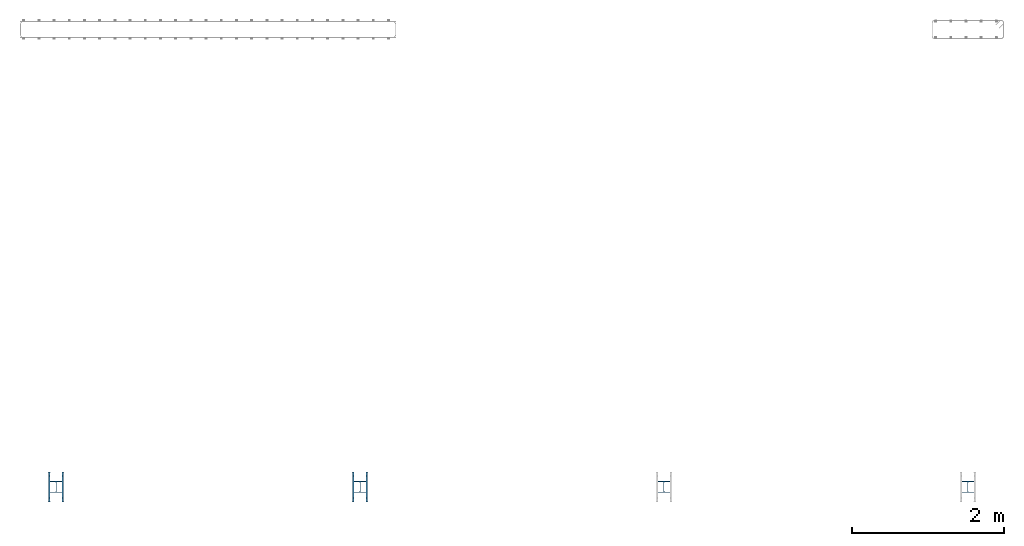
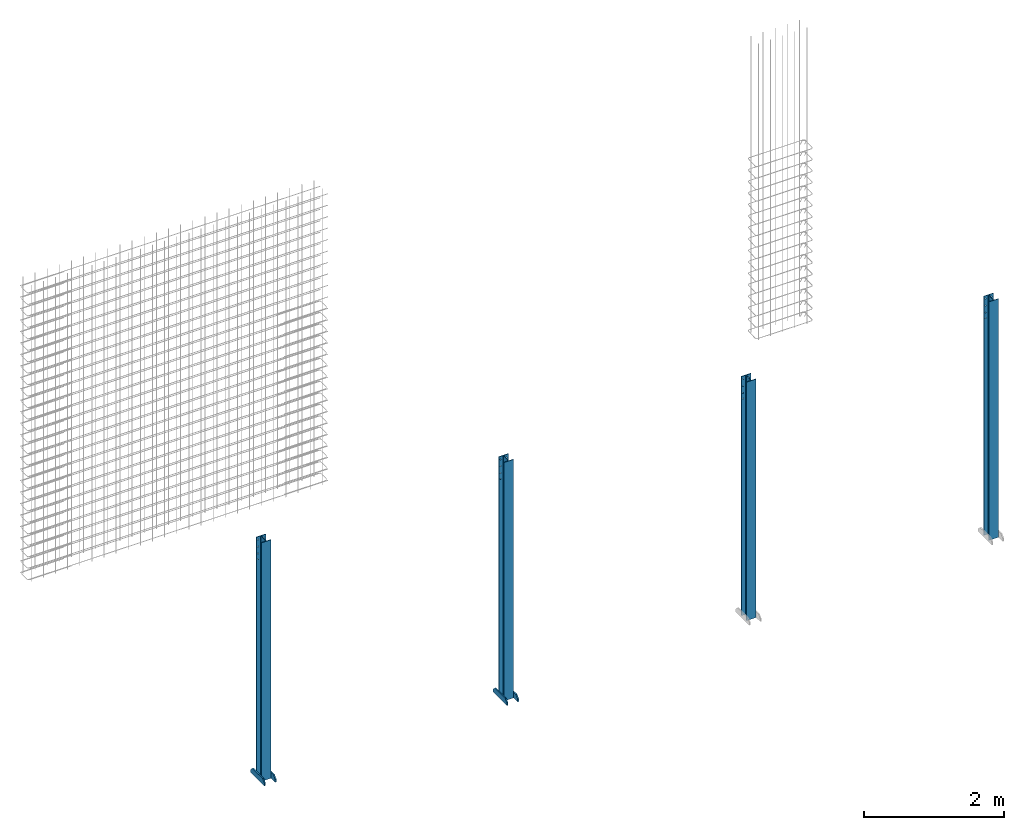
# One storey, part 1 of 4: 4 columns, 4 plates, 64 openings.
"""IFC4X3_ADD2 building model written with IfcOpenShell, lengths in millimetres."""

import ifcopenshell
import ifcopenshell.guid

model = None  # the IFC model being written
_history = None  # IfcOwnerHistory: only IFC2X3 demands one
_inside = {}  # id of a spatial element -> (the spatial element, [elements in it])
_under = {}  # id of a project, library or spatial element -> (it, [spatial elements below it])
_declared = {}  # id of a project -> (the project, [libraries it declares])
_typed = {}  # id of a type object -> (the type object, [elements of that type])
_made_of = {}  # id of a material, layer set ... -> (it, [elements and type objects made of it])


def new_model(schema):
    """Start an empty IFC model of exactly this schema.

    Asked for "IFC4X3", IfcOpenShell would pick the latest addendum, in which some entities
    have other attributes; the version numbers below select the first issue.
    IFC2X3 requires an IfcOwnerHistory on every rooted entity: one is made here for all.
    """
    global model, _history
    if schema == "IFC4X3":
        model = ifcopenshell.file(schema_version=(4, 3, 0, 0))
    else:
        model = ifcopenshell.file(schema=schema)
    _inside.clear()
    _under.clear()
    _declared.clear()
    _typed.clear()
    _made_of.clear()
    _history = None
    if model.schema == "IFC2X3":
        org = make("IfcOrganization", Name="unknown")
        user = make(
            "IfcPersonAndOrganization",
            ThePerson=make("IfcPerson", FamilyName="unknown"),
            TheOrganization=org,
        )
        app = make(
            "IfcApplication",
            ApplicationDeveloper=org,
            Version="unknown",
            ApplicationFullName="unknown",
            ApplicationIdentifier="unknown",
        )
        _history = make(
            "IfcOwnerHistory",
            OwningUser=user,
            OwningApplication=app,
            ChangeAction="ADDED",
            CreationDate=0,
        )
    return model


def make(cls, **values):
    """One entity of the class cls with the attributes given. An attribute that is None is left unset."""
    return model.create_entity(
        cls, **{name: value for name, value in values.items() if value is not None}
    )


def entity(cls, *values):
    """Any entity or typed value of the class cls, its attributes in the order of the schema. None: left unset."""
    e = model.create_entity(cls)
    for i, value in enumerate(values):
        if value is not None:
            e[i] = value
    return e


def rooted(cls, **values):
    """An entity with a GlobalId (a new one), such as an element, a storey or a relation."""
    return make(cls, GlobalId=ifcopenshell.guid.new(), OwnerHistory=_history, **values)


def si_unit(unit_type, name, prefix=None):
    """IfcSIUnit, for example si_unit("LENGTHUNIT", "METRE", prefix="MILLI")."""
    return make("IfcSIUnit", UnitType=unit_type, Prefix=prefix, Name=name)


def converted_unit(unit_type, name, factor, base, dimensions=None, offset=None):
    """IfcConversionBasedUnit, such as the inch: factor (a typed value) times the base unit."""
    return make(
        "IfcConversionBasedUnit"
        if offset is None
        else "IfcConversionBasedUnitWithOffset",
        ConversionOffset=offset,
        Dimensions=None
        if dimensions is None
        else entity("IfcDimensionalExponents", *dimensions),
        UnitType=unit_type,
        Name=name,
        ConversionFactor=make(
            "IfcMeasureWithUnit", ValueComponent=factor, UnitComponent=base
        ),
    )


def derived_unit(unit_type, elements):
    """IfcDerivedUnit: a product of units, each with its exponent."""
    return make(
        "IfcDerivedUnit",
        Elements=[
            make("IfcDerivedUnitElement", Unit=unit, Exponent=power)
            for unit, power in elements
        ],
        UnitType=unit_type,
    )


def assignment(units):
    """IfcUnitAssignment: the units of a project."""
    return None if units is None else make("IfcUnitAssignment", Units=units)


def point(xyz):
    """IfcCartesianPoint."""
    return None if xyz is None else make("IfcCartesianPoint", Coordinates=xyz)


def direction(xyz):
    """IfcDirection."""
    return None if xyz is None else make("IfcDirection", DirectionRatios=xyz)


def frame(location, z_axis=None, x_axis=None):
    """IfcAxis2Placement3D, a coordinate frame: its origin and axes. An axis left out is left unset."""
    return make(
        "IfcAxis2Placement3D",
        Location=point(location),
        Axis=direction(z_axis),
        RefDirection=direction(x_axis),
    )


def frame_2d(location, x_axis=None):
    """IfcAxis2Placement2D, a coordinate frame in the plane: its origin and x axis."""
    return make(
        "IfcAxis2Placement2D", Location=point(location), RefDirection=direction(x_axis)
    )


def origin():
    """The frame at (0, 0, 0) with its axes left unset."""
    return frame((0.0, 0.0, 0.0))


def origin_with_axes():
    """The frame at (0, 0, 0) with the z axis (0, 0, 1) and the x axis (1, 0, 0) written out."""
    return frame((0.0, 0.0, 0.0), z_axis=(0.0, 0.0, 1.0), x_axis=(1.0, 0.0, 0.0))


def origin_2d():
    """The frame at (0, 0) in the plane with its x axis left unset."""
    return frame_2d((0.0, 0.0))


def origin_2d_with_axis():
    """The frame at (0, 0) in the plane with the x axis (1, 0) written out."""
    return frame_2d((0.0, 0.0), x_axis=(1.0, 0.0))


def place(relative_to, where):
    """IfcLocalPlacement: puts the frame where relative to a parent placement (None: the world)."""
    return make(
        "IfcLocalPlacement", PlacementRelTo=relative_to, RelativePlacement=where
    )


def context(
    kind, dimensions, precision=None, world=None, true_north=None, identifier=None
):
    """IfcGeometricRepresentationContext, for example the 3D "Model" context."""
    return make(
        "IfcGeometricRepresentationContext",
        ContextIdentifier=identifier,
        ContextType=kind,
        CoordinateSpaceDimension=dimensions,
        Precision=precision,
        WorldCoordinateSystem=world,
        TrueNorth=true_north,
    )


def project(units=None, contexts=None):
    """IfcProject with its units and contexts."""
    return rooted(
        "IfcProject",
        Name="project",
        RepresentationContexts=contexts,
        UnitsInContext=assignment(units),
    )


def spatial(cls, under=None, at=None, **own):
    """A site, building, storey or space (cls), placed at a placement, below another one or the project."""
    s = rooted(cls, ObjectPlacement=at, **own)
    if under is not None:
        _under.setdefault(under.id(), (under, []))[1].append(s)
    return s


def polyline(points):
    """IfcPolyline through the points."""
    return make("IfcPolyline", Points=[point(p) for p in points])


def profile(cls, at=None, kind="AREA", **sizes):
    """A parametric profile (cls). Its sizes go by their IFC names, for example OverallWidth=200.0."""
    return make(cls, ProfileType=kind, Position=at, **sizes)


def circle(**sizes):
    """IfcCircleProfileDef."""
    return profile("IfcCircleProfileDef", **sizes)


def i_section(**sizes):
    """IfcIShapeProfileDef."""
    return profile("IfcIShapeProfileDef", **sizes)


def outline(outer, holes=None, kind="AREA"):
    """IfcArbitraryClosedProfileDef: a profile drawn as a closed curve; with holes, ...WithVoids."""
    if holes is None:
        return make("IfcArbitraryClosedProfileDef", ProfileType=kind, OuterCurve=outer)
    return make(
        "IfcArbitraryProfileDefWithVoids",
        ProfileType=kind,
        OuterCurve=outer,
        InnerCurves=holes,
    )


def extrude(swept, where, along, depth):
    """IfcExtrudedAreaSolid: the profile swept, set in the frame where, extruded along a direction by depth."""
    return make(
        "IfcExtrudedAreaSolid",
        SweptArea=swept,
        Position=where,
        ExtrudedDirection=direction(along),
        Depth=depth,
    )


def clip(a, b, op="DIFFERENCE"):
    """IfcBooleanClippingResult: the solid a cut by the half space b."""
    return make(
        "IfcBooleanClippingResult", Operator=op, FirstOperand=a, SecondOperand=b
    )


def halfspace(plane, agree):
    """IfcHalfSpaceSolid: all space on one side of the plane z = 0 of the frame plane."""
    return make(
        "IfcHalfSpaceSolid",
        BaseSurface=make("IfcPlane", Position=plane),
        AgreementFlag=agree,
    )


def shape(context_of_items, identifier, shape_type, items):
    """IfcShapeRepresentation: the items that make up one representation, for example the "Body"."""
    return make(
        "IfcShapeRepresentation",
        ContextOfItems=context_of_items,
        RepresentationIdentifier=identifier,
        RepresentationType=shape_type,
        Items=items,
    )


def material(Name=None, Category=None):
    """IfcMaterial."""
    return make("IfcMaterial", Name=Name, Category=Category)


def layer(
    of_material, thickness, ventilated=None, Name=None, Category=None, Priority=None
):
    """IfcMaterialLayer: one layer of a wall or slab, of a material (None: an air gap)."""
    return make(
        "IfcMaterialLayer",
        Material=of_material,
        LayerThickness=thickness,
        IsVentilated=ventilated,
        Name=Name,
        Category=Category,
        Priority=Priority,
    )


def layer_set(layers, Name=None):
    """IfcMaterialLayerSet."""
    return make("IfcMaterialLayerSet", MaterialLayers=layers, LayerSetName=Name)


def made_of(thing, what):
    """Note that an element or type object is made of a material, layer set ...; save() writes the relation."""
    if what is not None:
        _made_of.setdefault(what.id(), (what, []))[1].append(thing)
    return thing


def type_object(cls, material=None, **own):
    """A type object (cls), such as IfcWallType, which elements share."""
    return made_of(rooted(cls, **own), material)


def element(
    cls,
    number,
    at=None,
    inside=None,
    cuts=None,
    type_object=None,
    material=None,
    context=None,
    identifier="Body",
    shape_type=None,
    held_by="IfcProductDefinitionShape",
    body=None,
    shapes=None,
    **own,
):
    """One element of the class cls, such as IfcWall. Its Tag is "e" and its number.

    at: its placement. inside: the storey or other place that contains it. cuts: it is an
    opening in that element (IfcRelVoidsElement). A single representation is given by context,
    identifier, shape_type and body (its items); several are given by shapes. held_by: the class
    of the entity that holds the representations. save() writes the other relations.
    """
    e = rooted(cls, Tag="e%d" % number, ObjectPlacement=at, **own)
    if body is not None:
        shapes = [shape(context, identifier, shape_type, body)]
    if shapes is not None:
        e.Representation = make(held_by, Representations=shapes)
    if inside is not None:
        _inside.setdefault(inside.id(), (inside, []))[1].append(e)
    if cuts is not None:
        rooted(
            "IfcRelVoidsElement", RelatingBuildingElement=cuts, RelatedOpeningElement=e
        )
    if type_object is not None:
        _typed.setdefault(type_object.id(), (type_object, []))[1].append(e)
    return made_of(e, material)


def aggregate(whole, parts):
    """IfcRelAggregates: a whole, such as a stair, and the parts it consists of."""
    return rooted("IfcRelAggregates", RelatingObject=whole, RelatedObjects=parts)


def save(model, path):
    """Write the relations noted so far, then the file.

    IfcRelAggregates (storeys below a building ...), IfcRelContainedInSpatialStructure (elements
    in a storey), IfcRelDefinesByType, IfcRelAssociatesMaterial and IfcRelDeclares: one each for
    every whole, place, type object, material and project.
    """
    for whole, parts in _under.values():
        aggregate(whole, parts)
    for where, things in _inside.values():
        rooted(
            "IfcRelContainedInSpatialStructure",
            RelatedElements=things,
            RelatingStructure=where,
        )
    for kind, things in _typed.values():
        rooted("IfcRelDefinesByType", RelatedObjects=things, RelatingType=kind)
    for what, things in _made_of.values():
        rooted("IfcRelAssociatesMaterial", RelatedObjects=things, RelatingMaterial=what)
    for by, libraries in _declared.values():
        rooted("IfcRelDeclares", RelatingContext=by, RelatedDefinitions=libraries)
    model.write(path)


model = new_model("IFC4X3_ADD2")

# Units and contexts
model_context = context("Model", 3, precision=0.01, world=origin(), true_north=direction((6.123233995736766e-17, 1.0)))
plan_context = context("Plan", 3, precision=0.01, world=origin(), true_north=direction((6.123233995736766e-17, 1.0)))
ifc_project = project(units=[si_unit("LENGTHUNIT", "METRE", prefix="MILLI"), converted_unit("PLANEANGLEUNIT", "DEGREE", entity("IfcPlaneAngleMeasure", 0.017453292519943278), si_unit("PLANEANGLEUNIT", "RADIAN"), dimensions=[0, 0, 0, 0, 0, 0, 0]), si_unit("AREAUNIT", "SQUARE_METRE"), si_unit("VOLUMEUNIT", "CUBIC_METRE"), derived_unit("THERMALTRANSMITTANCEUNIT", [(si_unit("MASSUNIT", "GRAM", prefix="KILO"), 1), (si_unit("THERMODYNAMICTEMPERATUREUNIT", "KELVIN"), -1), (si_unit("TIMEUNIT", "SECOND"), -3)]), derived_unit("USERDEFINED", [(si_unit("MASSUNIT", "GRAM", prefix="KILO"), 1), (si_unit("THERMODYNAMICTEMPERATUREUNIT", "KELVIN"), -1), (si_unit("TIMEUNIT", "SECOND"), -2)]), derived_unit("THERMALRESISTANCEUNIT", [(si_unit("MASSUNIT", "GRAM", prefix="KILO"), -1), (si_unit("TIMEUNIT", "SECOND"), 3), (si_unit("THERMODYNAMICTEMPERATUREUNIT", "KELVIN"), 1)]), si_unit("MASSUNIT", "GRAM", prefix="KILO"), derived_unit("MOMENTOFINERTIAUNIT", [(si_unit("LENGTHUNIT", "METRE"), 4)]), derived_unit("LINEARFORCEUNIT", [(si_unit("MASSUNIT", "GRAM", prefix="KILO"), 1), (si_unit("TIMEUNIT", "SECOND"), -2)]), derived_unit("WARPINGCONSTANTUNIT", [(si_unit("LENGTHUNIT", "METRE"), 6)]), si_unit("PRESSUREUNIT", "PASCAL"), derived_unit("MASSDENSITYUNIT", [(si_unit("MASSUNIT", "GRAM", prefix="KILO"), 1), (si_unit("LENGTHUNIT", "METRE"), -3)]), derived_unit("MODULUSOFELASTICITYUNIT", [(si_unit("MASSUNIT", "GRAM", prefix="KILO"), 1), (si_unit("TIMEUNIT", "SECOND"), -2), (si_unit("LENGTHUNIT", "METRE"), -1)]), derived_unit("THERMALEXPANSIONCOEFFICIENTUNIT", [(si_unit("THERMODYNAMICTEMPERATUREUNIT", "KELVIN"), -1)]), derived_unit("VAPORPERMEABILITYUNIT", [(si_unit("LENGTHUNIT", "METRE"), -1), (si_unit("TIMEUNIT", "SECOND"), 1)]), derived_unit("USERDEFINED", [(si_unit("MASSUNIT", "GRAM", prefix="KILO"), 1), (si_unit("TIMEUNIT", "SECOND"), -3), (si_unit("LENGTHUNIT", "METRE"), 3), (si_unit("ELECTRICCURRENTUNIT", "AMPERE"), -2)]), derived_unit("SPECIFICHEATCAPACITYUNIT", [(si_unit("THERMODYNAMICTEMPERATUREUNIT", "KELVIN"), -1), (si_unit("TIMEUNIT", "SECOND"), -2), (si_unit("LENGTHUNIT", "METRE"), 2)]), derived_unit("THERMALCONDUCTANCEUNIT", [(si_unit("MASSUNIT", "GRAM", prefix="KILO"), 1), (si_unit("THERMODYNAMICTEMPERATUREUNIT", "KELVIN"), -1), (si_unit("TIMEUNIT", "SECOND"), -3), (si_unit("LENGTHUNIT", "METRE"), 1)])], contexts=[model_context, plan_context])

# Site, building, storey
site_placement = place(None, origin())
site = spatial("IfcSite", under=ifc_project, at=site_placement, Name="Default", CompositionType="ELEMENT")
building_placement = place(site_placement, origin())
building = spatial("IfcBuilding", under=site, at=building_placement, Name="Complex structure", CompositionType="ELEMENT")
storey_placement = place(building_placement, frame((0.0, 0.0, -200.0)))
storey = spatial("IfcBuildingStorey", under=building, at=storey_placement, Name="Level -01", CompositionType="ELEMENT", Elevation=-200.0)

# Column, openings
ifc_material_1 = material(Name="Structural Steel - S235", Category="Metal")
column_type = type_object("IfcColumnType", Name="HE-A Column:HEA160", PredefinedType="COLUMN", material=ifc_material_1)
column_1_placement = place(storey_placement, frame((-5145.221550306, -1282.866703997, 4391.004690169)))
column_1 = element("IfcColumn", 1, at=column_1_placement, inside=storey, type_object=column_type, material=ifc_material_1, Name="HE-A Column:HEA160", ObjectType="HEA160", context=model_context, shape_type="Clipping", body=[
    clip(clip(extrude(i_section(OverallWidth=160.0, OverallDepth=152.0, WebThickness=6.0, FlangeThickness=9.0, FilletRadius=15.0, at=origin_2d()), origin(), (0.0, 0.0, -1.0), 4581.349603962), halfspace(frame((5145.221550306, 1282.866703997, -4365.603690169), z_axis=(0.0, 0.0, 1.0), x_axis=(1.0, 0.0, 0.0)), True)), halfspace(frame((5145.221550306, 943.815402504, -122.389072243), z_axis=(0.0, 0.08304548, -0.996545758), x_axis=(-1.0, 0.0, 0.0)), True)),
])
opening_1_placement = place(column_1_placement, frame((49.1952, 66.5, -588.004690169), z_axis=(0.0, 1.0, 0.0), x_axis=(-1.0, 0.0, 0.0)))
element("IfcOpeningElement", 2, at=opening_1_placement, cuts=column_1, ObjectType="Opening", context=model_context, shape_type="SweptSolid", body=[
    extrude(circle(Radius=8.79475, at=origin_2d_with_axis()), origin(), (0.0, 0.0, 1.0), 10.0),
])
opening_2_placement = place(column_1_placement, frame((-49.8048, 66.5, -588.004690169), z_axis=(0.0, 1.0, 0.0), x_axis=(-1.0, 0.0, 0.0)))
element("IfcOpeningElement", 3, at=opening_2_placement, cuts=column_1, ObjectType="Opening", context=model_context, shape_type="SweptSolid", body=[
    extrude(circle(Radius=8.79475, at=origin_2d_with_axis()), origin(), (0.0, 0.0, 1.0), 10.0),
])
opening_3_placement = place(column_1_placement, frame((-49.8048, 66.5, -488.004690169), z_axis=(0.0, 1.0, 0.0), x_axis=(-1.0, 0.0, 0.0)))
element("IfcOpeningElement", 4, at=opening_3_placement, cuts=column_1, ObjectType="Opening", context=model_context, shape_type="SweptSolid", body=[
    extrude(circle(Radius=8.79475, at=origin_2d_with_axis()), origin(), (0.0, 0.0, 1.0), 10.0),
])
opening_4_placement = place(column_1_placement, frame((49.1952, 66.5, -248.004690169), z_axis=(0.0, 1.0, 0.0), x_axis=(-1.0, 0.0, 0.0)))
element("IfcOpeningElement", 5, at=opening_4_placement, cuts=column_1, ObjectType="Opening", context=model_context, shape_type="SweptSolid", body=[
    extrude(circle(Radius=8.79475, at=origin_2d_with_axis()), origin(), (0.0, 0.0, 1.0), 10.0),
])
opening_5_placement = place(column_1_placement, frame((-49.8048, 66.5, -248.004690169), z_axis=(0.0, 1.0, 0.0), x_axis=(-1.0, 0.0, 0.0)))
element("IfcOpeningElement", 6, at=opening_5_placement, cuts=column_1, ObjectType="Opening", context=model_context, shape_type="SweptSolid", body=[
    extrude(circle(Radius=8.79475, at=origin_2d_with_axis()), origin(), (0.0, 0.0, 1.0), 10.0),
])
opening_6_placement = place(column_1_placement, frame((49.1952, 66.5, -488.004690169), z_axis=(0.0, 1.0, 0.0), x_axis=(-1.0, 0.0, 0.0)))
element("IfcOpeningElement", 7, at=opening_6_placement, cuts=column_1, ObjectType="Opening", context=model_context, shape_type="SweptSolid", body=[
    extrude(circle(Radius=8.79475, at=origin_2d_with_axis()), origin(), (0.0, 0.0, 1.0), 10.0),
])
opening_7_placement = place(column_1_placement, frame((-49.8048, 66.5, -368.004690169), z_axis=(0.0, 1.0, 0.0), x_axis=(-1.0, 0.0, 0.0)))
element("IfcOpeningElement", 8, at=opening_7_placement, cuts=column_1, ObjectType="Opening", context=model_context, shape_type="SweptSolid", body=[
    extrude(circle(Radius=8.79475, at=origin_2d_with_axis()), origin(), (0.0, 0.0, 1.0), 10.0),
])
opening_8_placement = place(column_1_placement, frame((49.1952, 66.5, -368.004690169), z_axis=(0.0, 1.0, 0.0), x_axis=(-1.0, 0.0, 0.0)))
element("IfcOpeningElement", 9, at=opening_8_placement, cuts=column_1, ObjectType="Opening", context=model_context, shape_type="SweptSolid", body=[
    extrude(circle(Radius=8.79475, at=origin_2d_with_axis()), origin(), (0.0, 0.0, 1.0), 10.0),
])
opening_9_placement = place(column_1_placement, frame((-3.5, 25.0, -1226.004690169), z_axis=(1.0, 0.0, 0.0), x_axis=(0.0, 1.0, 0.0)))
element("IfcOpeningElement", 10, at=opening_9_placement, cuts=column_1, ObjectType="Opening", context=model_context, shape_type="SweptSolid", body=[
    extrude(circle(Radius=6.79475, at=origin_2d_with_axis()), origin(), (0.0, 0.0, 1.0), 7.0),
])
opening_10_placement = place(column_1_placement, frame((-3.5, -25.0, -1226.004690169), z_axis=(1.0, 0.0, 0.0), x_axis=(0.0, -1.0, 0.0)))
element("IfcOpeningElement", 11, at=opening_10_placement, cuts=column_1, ObjectType="Opening", context=model_context, shape_type="SweptSolid", body=[
    extrude(circle(Radius=6.79475, at=origin_2d_with_axis()), origin(), (0.0, 0.0, 1.0), 7.0),
])
opening_11_placement = place(column_1_placement, frame((-3.5, -25.0, -1291.004690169), z_axis=(1.0, 0.0, 0.0), x_axis=(0.0, -1.0, 0.0)))
element("IfcOpeningElement", 12, at=opening_11_placement, cuts=column_1, ObjectType="Opening", context=model_context, shape_type="SweptSolid", body=[
    extrude(circle(Radius=6.79475, at=origin_2d_with_axis()), origin(), (0.0, 0.0, 1.0), 7.0),
])
opening_12_placement = place(column_1_placement, frame((-3.5, 25.0, -1291.004690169), z_axis=(1.0, 0.0, 0.0), x_axis=(0.0, 1.0, 0.0)))
element("IfcOpeningElement", 13, at=opening_12_placement, cuts=column_1, ObjectType="Opening", context=model_context, shape_type="SweptSolid", body=[
    extrude(circle(Radius=6.79475, at=origin_2d_with_axis()), origin(), (0.0, 0.0, 1.0), 7.0),
])
opening_13_placement = place(column_1_placement, frame((3.5, 25.0, -1291.004690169), z_axis=(-1.0, 0.0, 0.0), x_axis=(0.0, 1.0, 0.0)))
element("IfcOpeningElement", 14, at=opening_13_placement, cuts=column_1, ObjectType="Opening", context=model_context, shape_type="SweptSolid", body=[
    extrude(circle(Radius=6.79475, at=origin_2d_with_axis()), origin(), (0.0, 0.0, 1.0), 7.0),
])
opening_14_placement = place(column_1_placement, frame((3.5, -25.0, -1226.004690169), z_axis=(-1.0, 0.0, 0.0), x_axis=(0.0, -1.0, 0.0)))
element("IfcOpeningElement", 15, at=opening_14_placement, cuts=column_1, ObjectType="Opening", context=model_context, shape_type="SweptSolid", body=[
    extrude(circle(Radius=6.79475, at=origin_2d_with_axis()), origin(), (0.0, 0.0, 1.0), 7.0),
])
opening_15_placement = place(column_1_placement, frame((3.5, 25.0, -1226.004690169), z_axis=(-1.0, 0.0, 0.0), x_axis=(0.0, 1.0, 0.0)))
element("IfcOpeningElement", 16, at=opening_15_placement, cuts=column_1, ObjectType="Opening", context=model_context, shape_type="SweptSolid", body=[
    extrude(circle(Radius=6.79475, at=origin_2d_with_axis()), origin(), (0.0, 0.0, 1.0), 7.0),
])
opening_16_placement = place(column_1_placement, frame((3.5, -25.0, -1291.004690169), z_axis=(-1.0, 0.0, 0.0), x_axis=(0.0, -1.0, 0.0)))
element("IfcOpeningElement", 17, at=opening_16_placement, cuts=column_1, ObjectType="Opening", context=model_context, shape_type="SweptSolid", body=[
    extrude(circle(Radius=6.79475, at=origin_2d_with_axis()), origin(), (0.0, 0.0, 1.0), 7.0),
])

column_2_placement = place(storey_placement, frame((-9145.221550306, -1282.866703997, 4391.004690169)))
column_2 = element("IfcColumn", 18, at=column_2_placement, inside=storey, type_object=column_type, material=ifc_material_1, Name="HE-A Column:HEA160", ObjectType="HEA160", context=model_context, shape_type="Clipping", body=[
    clip(clip(extrude(i_section(OverallWidth=160.0, OverallDepth=152.0, WebThickness=6.0, FlangeThickness=9.0, FilletRadius=15.0, at=origin_2d()), origin(), (0.0, 0.0, -1.0), 4581.349603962), halfspace(frame((9145.221550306, 1282.866703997, -4365.603690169), z_axis=(0.0, 0.0, 1.0), x_axis=(1.0, 0.0, 0.0)), True)), halfspace(frame((9145.221550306, 943.815402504, -122.389072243), z_axis=(0.0, 0.08304548, -0.996545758), x_axis=(-1.0, 0.0, 0.0)), True)),
])
opening_17_placement = place(column_2_placement, frame((49.1952, 66.5, -588.004690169), z_axis=(0.0, 1.0, 0.0), x_axis=(-1.0, 0.0, 0.0)))
element("IfcOpeningElement", 19, at=opening_17_placement, cuts=column_2, ObjectType="Opening", context=model_context, shape_type="SweptSolid", body=[
    extrude(circle(Radius=8.79475, at=origin_2d_with_axis()), origin(), (0.0, 0.0, 1.0), 10.0),
])
opening_18_placement = place(column_2_placement, frame((-49.8048, 66.5, -588.004690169), z_axis=(0.0, 1.0, 0.0), x_axis=(-1.0, 0.0, 0.0)))
element("IfcOpeningElement", 20, at=opening_18_placement, cuts=column_2, ObjectType="Opening", context=model_context, shape_type="SweptSolid", body=[
    extrude(circle(Radius=8.79475, at=origin_2d_with_axis()), origin(), (0.0, 0.0, 1.0), 10.0),
])
opening_19_placement = place(column_2_placement, frame((49.1952, 66.5, -248.004690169), z_axis=(0.0, 1.0, 0.0), x_axis=(-1.0, 0.0, 0.0)))
element("IfcOpeningElement", 21, at=opening_19_placement, cuts=column_2, ObjectType="Opening", context=model_context, shape_type="SweptSolid", body=[
    extrude(circle(Radius=8.79475, at=origin_2d_with_axis()), origin(), (0.0, 0.0, 1.0), 10.0),
])
opening_20_placement = place(column_2_placement, frame((49.1952, 66.5, -368.004690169), z_axis=(0.0, 1.0, 0.0), x_axis=(-1.0, 0.0, 0.0)))
element("IfcOpeningElement", 22, at=opening_20_placement, cuts=column_2, ObjectType="Opening", context=model_context, shape_type="SweptSolid", body=[
    extrude(circle(Radius=8.79475, at=origin_2d_with_axis()), origin(), (0.0, 0.0, 1.0), 10.0),
])
opening_21_placement = place(column_2_placement, frame((49.1952, 66.5, -488.004690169), z_axis=(0.0, 1.0, 0.0), x_axis=(-1.0, 0.0, 0.0)))
element("IfcOpeningElement", 23, at=opening_21_placement, cuts=column_2, ObjectType="Opening", context=model_context, shape_type="SweptSolid", body=[
    extrude(circle(Radius=8.79475, at=origin_2d_with_axis()), origin(), (0.0, 0.0, 1.0), 10.0),
])
opening_22_placement = place(column_2_placement, frame((-49.8048, 66.5, -248.004690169), z_axis=(0.0, 1.0, 0.0), x_axis=(-1.0, 0.0, 0.0)))
element("IfcOpeningElement", 24, at=opening_22_placement, cuts=column_2, ObjectType="Opening", context=model_context, shape_type="SweptSolid", body=[
    extrude(circle(Radius=8.79475, at=origin_2d_with_axis()), origin(), (0.0, 0.0, 1.0), 10.0),
])
opening_23_placement = place(column_2_placement, frame((-49.8048, 66.5, -368.004690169), z_axis=(0.0, 1.0, 0.0), x_axis=(-1.0, 0.0, 0.0)))
element("IfcOpeningElement", 25, at=opening_23_placement, cuts=column_2, ObjectType="Opening", context=model_context, shape_type="SweptSolid", body=[
    extrude(circle(Radius=8.79475, at=origin_2d_with_axis()), origin(), (0.0, 0.0, 1.0), 10.0),
])
opening_24_placement = place(column_2_placement, frame((-49.8048, 66.5, -488.004690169), z_axis=(0.0, 1.0, 0.0), x_axis=(-1.0, 0.0, 0.0)))
element("IfcOpeningElement", 26, at=opening_24_placement, cuts=column_2, ObjectType="Opening", context=model_context, shape_type="SweptSolid", body=[
    extrude(circle(Radius=8.79475, at=origin_2d_with_axis()), origin(), (0.0, 0.0, 1.0), 10.0),
])
opening_25_placement = place(column_2_placement, frame((3.5, 25.0, -1226.004690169), z_axis=(-1.0, 0.0, 0.0), x_axis=(0.0, 1.0, 0.0)))
element("IfcOpeningElement", 27, at=opening_25_placement, cuts=column_2, ObjectType="Opening", context=model_context, shape_type="SweptSolid", body=[
    extrude(circle(Radius=6.79475, at=origin_2d_with_axis()), origin(), (0.0, 0.0, 1.0), 7.0),
])
opening_26_placement = place(column_2_placement, frame((3.5, 25.0, -1291.004690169), z_axis=(-1.0, 0.0, 0.0), x_axis=(0.0, 1.0, 0.0)))
element("IfcOpeningElement", 28, at=opening_26_placement, cuts=column_2, ObjectType="Opening", context=model_context, shape_type="SweptSolid", body=[
    extrude(circle(Radius=6.79475, at=origin_2d_with_axis()), origin(), (0.0, 0.0, 1.0), 7.0),
])
opening_27_placement = place(column_2_placement, frame((3.5, -25.0, -1291.004690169), z_axis=(-1.0, 0.0, 0.0), x_axis=(0.0, -1.0, 0.0)))
element("IfcOpeningElement", 29, at=opening_27_placement, cuts=column_2, ObjectType="Opening", context=model_context, shape_type="SweptSolid", body=[
    extrude(circle(Radius=6.79475, at=origin_2d_with_axis()), origin(), (0.0, 0.0, 1.0), 7.0),
])
opening_28_placement = place(column_2_placement, frame((3.5, -25.0, -1226.004690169), z_axis=(-1.0, 0.0, 0.0), x_axis=(0.0, -1.0, 0.0)))
element("IfcOpeningElement", 30, at=opening_28_placement, cuts=column_2, ObjectType="Opening", context=model_context, shape_type="SweptSolid", body=[
    extrude(circle(Radius=6.79475, at=origin_2d_with_axis()), origin(), (0.0, 0.0, 1.0), 7.0),
])
opening_29_placement = place(column_2_placement, frame((-3.5, -25.0, -1226.004690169), z_axis=(1.0, 0.0, 0.0), x_axis=(0.0, -1.0, 0.0)))
element("IfcOpeningElement", 31, at=opening_29_placement, cuts=column_2, ObjectType="Opening", context=model_context, shape_type="SweptSolid", body=[
    extrude(circle(Radius=6.79475, at=origin_2d_with_axis()), origin(), (0.0, 0.0, 1.0), 7.0),
])
opening_30_placement = place(column_2_placement, frame((-3.5, 25.0, -1291.004690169), z_axis=(1.0, 0.0, 0.0), x_axis=(0.0, 1.0, 0.0)))
element("IfcOpeningElement", 32, at=opening_30_placement, cuts=column_2, ObjectType="Opening", context=model_context, shape_type="SweptSolid", body=[
    extrude(circle(Radius=6.79475, at=origin_2d_with_axis()), origin(), (0.0, 0.0, 1.0), 7.0),
])
opening_31_placement = place(column_2_placement, frame((-3.5, -25.0, -1291.004690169), z_axis=(1.0, 0.0, 0.0), x_axis=(0.0, -1.0, 0.0)))
element("IfcOpeningElement", 33, at=opening_31_placement, cuts=column_2, ObjectType="Opening", context=model_context, shape_type="SweptSolid", body=[
    extrude(circle(Radius=6.79475, at=origin_2d_with_axis()), origin(), (0.0, 0.0, 1.0), 7.0),
])
opening_32_placement = place(column_2_placement, frame((-3.5, 25.0, -1226.004690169), z_axis=(1.0, 0.0, 0.0), x_axis=(0.0, 1.0, 0.0)))
element("IfcOpeningElement", 34, at=opening_32_placement, cuts=column_2, ObjectType="Opening", context=model_context, shape_type="SweptSolid", body=[
    extrude(circle(Radius=6.79475, at=origin_2d_with_axis()), origin(), (0.0, 0.0, 1.0), 7.0),
])

column_3_placement = place(storey_placement, frame((-13145.221550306, -1282.866703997, 4391.004690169)))
column_3 = element("IfcColumn", 35, at=column_3_placement, inside=storey, type_object=column_type, material=ifc_material_1, Name="HE-A Column:HEA160", ObjectType="HEA160", context=model_context, shape_type="Clipping", body=[
    clip(clip(extrude(i_section(OverallWidth=160.0, OverallDepth=152.0, WebThickness=6.0, FlangeThickness=9.0, FilletRadius=15.0, at=origin_2d()), origin(), (0.0, 0.0, -1.0), 4581.349603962), halfspace(frame((13145.221550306, 1282.866703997, -4365.603690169), z_axis=(0.0, 0.0, 1.0), x_axis=(1.0, 0.0, 0.0)), True)), halfspace(frame((13145.221550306, 943.815402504, -122.389072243), z_axis=(0.0, 0.08304548, -0.996545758), x_axis=(-1.0, 0.0, 0.0)), True)),
])
opening_33_placement = place(column_3_placement, frame((-49.5, 66.5, -488.004690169), z_axis=(0.0, 1.0, 0.0), x_axis=(-1.0, 0.0, 0.0)))
element("IfcOpeningElement", 36, at=opening_33_placement, cuts=column_3, ObjectType="Opening", context=model_context, shape_type="SweptSolid", body=[
    extrude(circle(Radius=8.79475, at=origin_2d_with_axis()), origin(), (0.0, 0.0, 1.0), 10.0),
])
opening_34_placement = place(column_3_placement, frame((-49.5, 66.5, -588.004690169), z_axis=(0.0, 1.0, 0.0), x_axis=(-1.0, 0.0, 0.0)))
element("IfcOpeningElement", 37, at=opening_34_placement, cuts=column_3, ObjectType="Opening", context=model_context, shape_type="SweptSolid", body=[
    extrude(circle(Radius=8.79475, at=origin_2d_with_axis()), origin(), (0.0, 0.0, 1.0), 10.0),
])
opening_35_placement = place(column_3_placement, frame((49.5, 66.5, -588.004690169), z_axis=(0.0, 1.0, 0.0), x_axis=(-1.0, 0.0, 0.0)))
element("IfcOpeningElement", 38, at=opening_35_placement, cuts=column_3, ObjectType="Opening", context=model_context, shape_type="SweptSolid", body=[
    extrude(circle(Radius=8.79475, at=origin_2d_with_axis()), origin(), (0.0, 0.0, 1.0), 10.0),
])
opening_36_placement = place(column_3_placement, frame((49.5, 66.5, -368.004690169), z_axis=(0.0, 1.0, 0.0), x_axis=(-1.0, 0.0, 0.0)))
element("IfcOpeningElement", 39, at=opening_36_placement, cuts=column_3, ObjectType="Opening", context=model_context, shape_type="SweptSolid", body=[
    extrude(circle(Radius=8.79475, at=origin_2d_with_axis()), origin(), (0.0, 0.0, 1.0), 10.0),
])
opening_37_placement = place(column_3_placement, frame((-49.5, 66.5, -368.004690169), z_axis=(0.0, 1.0, 0.0), x_axis=(-1.0, 0.0, 0.0)))
element("IfcOpeningElement", 40, at=opening_37_placement, cuts=column_3, ObjectType="Opening", context=model_context, shape_type="SweptSolid", body=[
    extrude(circle(Radius=8.79475, at=origin_2d_with_axis()), origin(), (0.0, 0.0, 1.0), 10.0),
])
opening_38_placement = place(column_3_placement, frame((49.5, 66.5, -248.004690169), z_axis=(0.0, 1.0, 0.0), x_axis=(-1.0, 0.0, 0.0)))
element("IfcOpeningElement", 41, at=opening_38_placement, cuts=column_3, ObjectType="Opening", context=model_context, shape_type="SweptSolid", body=[
    extrude(circle(Radius=8.79475, at=origin_2d_with_axis()), origin(), (0.0, 0.0, 1.0), 10.0),
])
opening_39_placement = place(column_3_placement, frame((-49.5, 66.5, -248.004690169), z_axis=(0.0, 1.0, 0.0), x_axis=(-1.0, 0.0, 0.0)))
element("IfcOpeningElement", 42, at=opening_39_placement, cuts=column_3, ObjectType="Opening", context=model_context, shape_type="SweptSolid", body=[
    extrude(circle(Radius=8.79475, at=origin_2d_with_axis()), origin(), (0.0, 0.0, 1.0), 10.0),
])
opening_40_placement = place(column_3_placement, frame((49.5, 66.5, -488.004690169), z_axis=(0.0, 1.0, 0.0), x_axis=(-1.0, 0.0, 0.0)))
element("IfcOpeningElement", 43, at=opening_40_placement, cuts=column_3, ObjectType="Opening", context=model_context, shape_type="SweptSolid", body=[
    extrude(circle(Radius=8.79475, at=origin_2d_with_axis()), origin(), (0.0, 0.0, 1.0), 10.0),
])
opening_41_placement = place(column_3_placement, frame((-3.5, 25.0, -1291.004690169), z_axis=(1.0, 0.0, 0.0), x_axis=(0.0, 1.0, 0.0)))
element("IfcOpeningElement", 44, at=opening_41_placement, cuts=column_3, ObjectType="Opening", context=model_context, shape_type="SweptSolid", body=[
    extrude(circle(Radius=6.79475, at=origin_2d_with_axis()), origin(), (0.0, 0.0, 1.0), 7.0),
])
opening_42_placement = place(column_3_placement, frame((-3.5, -25.0, -1291.004690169), z_axis=(1.0, 0.0, 0.0), x_axis=(0.0, -1.0, 0.0)))
element("IfcOpeningElement", 45, at=opening_42_placement, cuts=column_3, ObjectType="Opening", context=model_context, shape_type="SweptSolid", body=[
    extrude(circle(Radius=6.79475, at=origin_2d_with_axis()), origin(), (0.0, 0.0, 1.0), 7.0),
])
opening_43_placement = place(column_3_placement, frame((-3.5, -25.0, -1226.004690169), z_axis=(1.0, 0.0, 0.0), x_axis=(0.0, -1.0, 0.0)))
element("IfcOpeningElement", 46, at=opening_43_placement, cuts=column_3, ObjectType="Opening", context=model_context, shape_type="SweptSolid", body=[
    extrude(circle(Radius=6.79475, at=origin_2d_with_axis()), origin(), (0.0, 0.0, 1.0), 7.0),
])
opening_44_placement = place(column_3_placement, frame((-3.5, 25.0, -1226.004690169), z_axis=(1.0, 0.0, 0.0), x_axis=(0.0, 1.0, 0.0)))
element("IfcOpeningElement", 47, at=opening_44_placement, cuts=column_3, ObjectType="Opening", context=model_context, shape_type="SweptSolid", body=[
    extrude(circle(Radius=6.79475, at=origin_2d_with_axis()), origin(), (0.0, 0.0, 1.0), 7.0),
])

column_4_placement = place(storey_placement, frame((-1145.221550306, -1282.866703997, 4391.004690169)))
column_4 = element("IfcColumn", 48, at=column_4_placement, inside=storey, type_object=column_type, material=ifc_material_1, Name="HE-A Column:HEA160", ObjectType="HEA160", context=model_context, shape_type="Clipping", body=[
    clip(clip(extrude(i_section(OverallWidth=160.0, OverallDepth=152.0, WebThickness=6.0, FlangeThickness=9.0, FilletRadius=15.0, at=origin_2d()), origin(), (0.0, 0.0, -1.0), 4581.349603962), halfspace(frame((1145.221550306, 1282.866703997, -4365.603690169), z_axis=(0.0, 0.0, 1.0), x_axis=(1.0, 0.0, 0.0)), True)), halfspace(frame((1145.221550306, 943.815402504, -122.389072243), z_axis=(0.0, 0.08304548, -0.996545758), x_axis=(-1.0, 0.0, 0.0)), True)),
])
opening_45_placement = place(column_4_placement, frame((49.1952, 66.5, -368.004690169), z_axis=(0.0, 1.0, 0.0), x_axis=(-1.0, 0.0, 0.0)))
element("IfcOpeningElement", 49, at=opening_45_placement, cuts=column_4, ObjectType="Opening", context=model_context, shape_type="SweptSolid", body=[
    extrude(circle(Radius=8.79475, at=origin_2d_with_axis()), origin(), (0.0, 0.0, 1.0), 10.0),
])
opening_46_placement = place(column_4_placement, frame((49.1952, 66.5, -248.004690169), z_axis=(0.0, 1.0, 0.0), x_axis=(-1.0, 0.0, 0.0)))
element("IfcOpeningElement", 50, at=opening_46_placement, cuts=column_4, ObjectType="Opening", context=model_context, shape_type="SweptSolid", body=[
    extrude(circle(Radius=8.79475, at=origin_2d_with_axis()), origin(), (0.0, 0.0, 1.0), 10.0),
])
opening_47_placement = place(column_4_placement, frame((49.1952, 66.5, -588.004690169), z_axis=(0.0, 1.0, 0.0), x_axis=(-1.0, 0.0, 0.0)))
element("IfcOpeningElement", 51, at=opening_47_placement, cuts=column_4, ObjectType="Opening", context=model_context, shape_type="SweptSolid", body=[
    extrude(circle(Radius=8.79475, at=origin_2d_with_axis()), origin(), (0.0, 0.0, 1.0), 10.0),
])
opening_48_placement = place(column_4_placement, frame((-49.8048, 66.5, -368.004690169), z_axis=(0.0, 1.0, 0.0), x_axis=(-1.0, 0.0, 0.0)))
element("IfcOpeningElement", 52, at=opening_48_placement, cuts=column_4, ObjectType="Opening", context=model_context, shape_type="SweptSolid", body=[
    extrude(circle(Radius=8.79475, at=origin_2d_with_axis()), origin(), (0.0, 0.0, 1.0), 10.0),
])
opening_49_placement = place(column_4_placement, frame((49.1952, 66.5, -488.004690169), z_axis=(0.0, 1.0, 0.0), x_axis=(-1.0, 0.0, 0.0)))
element("IfcOpeningElement", 53, at=opening_49_placement, cuts=column_4, ObjectType="Opening", context=model_context, shape_type="SweptSolid", body=[
    extrude(circle(Radius=8.79475, at=origin_2d_with_axis()), origin(), (0.0, 0.0, 1.0), 10.0),
])
opening_50_placement = place(column_4_placement, frame((-49.8048, 66.5, -488.004690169), z_axis=(0.0, 1.0, 0.0), x_axis=(-1.0, 0.0, 0.0)))
element("IfcOpeningElement", 54, at=opening_50_placement, cuts=column_4, ObjectType="Opening", context=model_context, shape_type="SweptSolid", body=[
    extrude(circle(Radius=8.79475, at=origin_2d_with_axis()), origin(), (0.0, 0.0, 1.0), 10.0),
])
opening_51_placement = place(column_4_placement, frame((-49.8048, 66.5, -588.004690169), z_axis=(0.0, 1.0, 0.0), x_axis=(-1.0, 0.0, 0.0)))
element("IfcOpeningElement", 55, at=opening_51_placement, cuts=column_4, ObjectType="Opening", context=model_context, shape_type="SweptSolid", body=[
    extrude(circle(Radius=8.79475, at=origin_2d_with_axis()), origin(), (0.0, 0.0, 1.0), 10.0),
])
opening_52_placement = place(column_4_placement, frame((-49.8048, 66.5, -248.004690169), z_axis=(0.0, 1.0, 0.0), x_axis=(-1.0, 0.0, 0.0)))
element("IfcOpeningElement", 56, at=opening_52_placement, cuts=column_4, ObjectType="Opening", context=model_context, shape_type="SweptSolid", body=[
    extrude(circle(Radius=8.79475, at=origin_2d_with_axis()), origin(), (0.0, 0.0, 1.0), 10.0),
])
opening_53_placement = place(column_4_placement, frame((3.5, 25.0, -1226.004690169), z_axis=(-1.0, 0.0, 0.0), x_axis=(0.0, 1.0, 0.0)))
element("IfcOpeningElement", 57, at=opening_53_placement, cuts=column_4, ObjectType="Opening", context=model_context, shape_type="SweptSolid", body=[
    extrude(circle(Radius=6.79475, at=origin_2d_with_axis()), origin(), (0.0, 0.0, 1.0), 7.0),
])
opening_54_placement = place(column_4_placement, frame((3.5, 25.0, -1291.004690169), z_axis=(-1.0, 0.0, 0.0), x_axis=(0.0, 1.0, 0.0)))
element("IfcOpeningElement", 58, at=opening_54_placement, cuts=column_4, ObjectType="Opening", context=model_context, shape_type="SweptSolid", body=[
    extrude(circle(Radius=6.79475, at=origin_2d_with_axis()), origin(), (0.0, 0.0, 1.0), 7.0),
])
opening_55_placement = place(column_4_placement, frame((3.5, -25.0, -1291.004690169), z_axis=(-1.0, 0.0, 0.0), x_axis=(0.0, -1.0, 0.0)))
element("IfcOpeningElement", 59, at=opening_55_placement, cuts=column_4, ObjectType="Opening", context=model_context, shape_type="SweptSolid", body=[
    extrude(circle(Radius=6.79475, at=origin_2d_with_axis()), origin(), (0.0, 0.0, 1.0), 7.0),
])
opening_56_placement = place(column_4_placement, frame((3.5, -25.0, -1226.004690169), z_axis=(-1.0, 0.0, 0.0), x_axis=(0.0, -1.0, 0.0)))
element("IfcOpeningElement", 60, at=opening_56_placement, cuts=column_4, ObjectType="Opening", context=model_context, shape_type="SweptSolid", body=[
    extrude(circle(Radius=6.79475, at=origin_2d_with_axis()), origin(), (0.0, 0.0, 1.0), 7.0),
])

# Plate, openings
ifc_material_2 = material(Name="Metal Stud Layer")
ifc_layer = layer(ifc_material_2, 20.0)
ifc_layer_set = layer_set([ifc_layer], Name="Metal Stud Layer")
plate_1_placement = place(storey_placement, frame((-9225.221550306, -1086.866703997, 25.400000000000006), z_axis=(-1.0, 0.0, 0.0), x_axis=(0.0, -1.0, 0.0)))
plate_1 = element("IfcPlate", 61, at=plate_1_placement, inside=storey, material=ifc_layer_set, Name="Stiffener#5", ObjectType="Stiffener#5", context=model_context, shape_type="SweptSolid", body=[
    extrude(outline(polyline([(0.0, 0.0), (392.0, 0.0), (392.0, 100.0), (0.0, 100.0), (0.0, 0.0)])), origin_with_axes(), (0.0, 0.0, 1.0), 20.0),
])
opening_57_placement = place(plate_1_placement, frame((0.0, 0.0, -0.01), z_axis=(0.0, 0.0, 1.0), x_axis=(1.0, 0.0, 0.0)))
element("IfcOpeningElement", 62, at=opening_57_placement, cuts=plate_1, ObjectType="Opening", context=model_context, shape_type="SweptSolid", body=[
    extrude(outline(polyline([(392.0, 100.0), (342.0, 100.0), (392.0, 50.0), (392.0, 100.0)])), origin(), (0.0, 0.0, 1.0), 20.02),
])
opening_58_placement = place(plate_1_placement, frame((0.0, 0.0, -0.01), z_axis=(0.0, 0.0, 1.0), x_axis=(1.0, 0.0, 0.0)))
element("IfcOpeningElement", 63, at=opening_58_placement, cuts=plate_1, ObjectType="Opening", context=model_context, shape_type="SweptSolid", body=[
    extrude(outline(polyline([(0.0, 100.0), (0.0, 50.0), (50.0, 100.0), (0.0, 100.0)])), origin(), (0.0, 0.0, 1.0), 20.02),
])

plate_2_placement = place(storey_placement, frame((-9065.221550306, -1086.866703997, 125.4), z_axis=(1.0, 0.0, 0.0), x_axis=(0.0, -1.0, 0.0)))
plate_2 = element("IfcPlate", 64, at=plate_2_placement, inside=storey, material=ifc_layer_set, Name="Stiffener#6", ObjectType="Stiffener#6", context=model_context, shape_type="SweptSolid", body=[
    extrude(outline(polyline([(0.0, 0.0), (392.0, 0.0), (392.0, 100.0), (0.0, 100.0), (0.0, 0.0)])), origin_with_axes(), (0.0, 0.0, 1.0), 20.0),
])
opening_59_placement = place(plate_2_placement, frame((0.0, 0.0, -0.01), z_axis=(0.0, 0.0, 1.0), x_axis=(1.0, 0.0, 0.0)))
element("IfcOpeningElement", 65, at=opening_59_placement, cuts=plate_2, ObjectType="Opening", context=model_context, shape_type="SweptSolid", body=[
    extrude(outline(polyline([(392.0, 0.0), (392.0, 50.0), (342.0, 0.0), (392.0, 0.0)])), origin(), (0.0, 0.0, 1.0), 20.02),
])
opening_60_placement = place(plate_2_placement, frame((0.0, 0.0, -0.01), z_axis=(0.0, 0.0, 1.0), x_axis=(1.0, 0.0, 0.0)))
element("IfcOpeningElement", 66, at=opening_60_placement, cuts=plate_2, ObjectType="Opening", context=model_context, shape_type="SweptSolid", body=[
    extrude(outline(polyline([(0.0, 0.0), (50.0, 0.0), (0.0, 50.0), (0.0, 0.0)])), origin(), (0.0, 0.0, 1.0), 20.02),
])

plate_3_placement = place(storey_placement, frame((-13225.221550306, -1086.866703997, 25.400000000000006), z_axis=(-1.0, 0.0, 0.0), x_axis=(0.0, -1.0, 0.0)))
plate_3 = element("IfcPlate", 67, at=plate_3_placement, inside=storey, material=ifc_layer_set, Name="Stiffener#5", ObjectType="Stiffener#5", context=model_context, shape_type="SweptSolid", body=[
    extrude(outline(polyline([(0.0, 0.0), (392.0, 0.0), (392.0, 100.0), (0.0, 100.0), (0.0, 0.0)])), origin_with_axes(), (0.0, 0.0, 1.0), 20.0),
])
opening_61_placement = place(plate_3_placement, frame((0.0, 0.0, -0.01), z_axis=(0.0, 0.0, 1.0), x_axis=(1.0, 0.0, 0.0)))
element("IfcOpeningElement", 68, at=opening_61_placement, cuts=plate_3, ObjectType="Opening", context=model_context, shape_type="SweptSolid", body=[
    extrude(outline(polyline([(392.0, 100.0), (342.0, 100.0), (392.0, 50.0), (392.0, 100.0)])), origin(), (0.0, 0.0, 1.0), 20.02),
])
opening_62_placement = place(plate_3_placement, frame((0.0, 0.0, -0.01), z_axis=(0.0, 0.0, 1.0), x_axis=(1.0, 0.0, 0.0)))
element("IfcOpeningElement", 69, at=opening_62_placement, cuts=plate_3, ObjectType="Opening", context=model_context, shape_type="SweptSolid", body=[
    extrude(outline(polyline([(0.0, 100.0), (0.0, 50.0), (50.0, 100.0), (0.0, 100.0)])), origin(), (0.0, 0.0, 1.0), 20.02),
])

plate_4_placement = place(storey_placement, frame((-13065.221550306, -1086.866703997, 125.4), z_axis=(1.0, 0.0, 0.0), x_axis=(0.0, -1.0, 0.0)))
plate_4 = element("IfcPlate", 70, at=plate_4_placement, inside=storey, material=ifc_layer_set, Name="Stiffener#6", ObjectType="Stiffener#6", context=model_context, shape_type="SweptSolid", body=[
    extrude(outline(polyline([(0.0, 0.0), (392.0, 0.0), (392.0, 100.0), (0.0, 100.0), (0.0, 0.0)])), origin_with_axes(), (0.0, 0.0, 1.0), 20.0),
])
opening_63_placement = place(plate_4_placement, frame((0.0, 0.0, -0.01), z_axis=(0.0, 0.0, 1.0), x_axis=(1.0, 0.0, 0.0)))
element("IfcOpeningElement", 71, at=opening_63_placement, cuts=plate_4, ObjectType="Opening", context=model_context, shape_type="SweptSolid", body=[
    extrude(outline(polyline([(392.0, 0.0), (392.0, 50.0), (342.0, 0.0), (392.0, 0.0)])), origin(), (0.0, 0.0, 1.0), 20.02),
])
opening_64_placement = place(plate_4_placement, frame((0.0, 0.0, -0.01), z_axis=(0.0, 0.0, 1.0), x_axis=(1.0, 0.0, 0.0)))
element("IfcOpeningElement", 72, at=opening_64_placement, cuts=plate_4, ObjectType="Opening", context=model_context, shape_type="SweptSolid", body=[
    extrude(outline(polyline([(0.0, 0.0), (50.0, 0.0), (0.0, 50.0), (0.0, 0.0)])), origin(), (0.0, 0.0, 1.0), 20.02),
])

save(model, "model.ifc")
